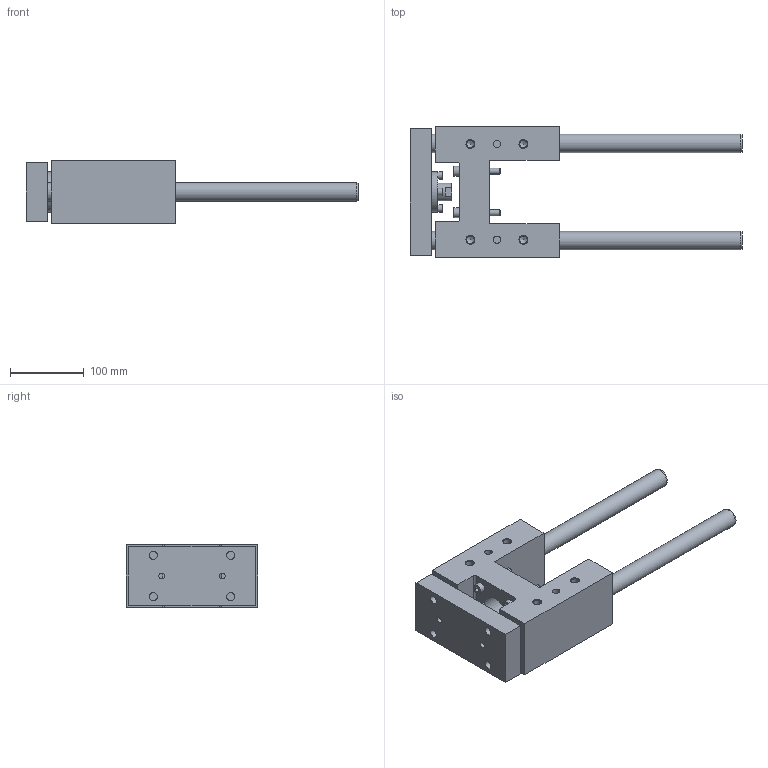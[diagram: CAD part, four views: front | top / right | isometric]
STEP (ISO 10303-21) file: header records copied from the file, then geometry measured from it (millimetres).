
FILE_DESCRIPTION( ( 'STEP AP214' ), '1' );
FILE_NAME( 'U:/Etudes/Top Solid/BIBLIO 3D AVM/TOP/PNEUMATIQUE/GUIDAGES/Type 32 (en H)/R_Renforcée/327R4_30.step', '2005-05-27T09:06:16', ( ' ' ), ( ' ' ), 'XStep 1.0', ' ', ' ' );
FILE_SCHEMA( ( 'automotive_design' ) );
Length unit declared in the file: metre
Products named in the file (2): 1; 2
Bounding box: 451 x 178 x 85 mm (x, y, z)
Volume: 2210950.2 mm3; surface area: 286181.7 mm2
Topology: 2 solids, 7 shells, 209 faces, 484 edges, 321 vertices
Faces by surface type: plane 118, cylinder 70, cone 21
Full cylindrical faces by diameter (mm): 6 x8, 6.5 x4, 8 x10, 8.376 x4, 9 x4, 10 x6, 10.106 x8, 11 x4, 13 x4, 14.376 x2, 18 x4, 24 x1, 25 x4, 26 x1, 34 x1, 37 x1, 45 x1, 55 x1
Entity records: 7089 total; most frequent: CARTESIAN_POINT 1103, DIRECTION 900, ORIENTED_EDGE 696, EDGE_LOOP 358, AXIS2_PLACEMENT_3D 349, EDGE_CURVE 348, VERTEX_POINT 280, FACE_OUTER_BOUND 277
